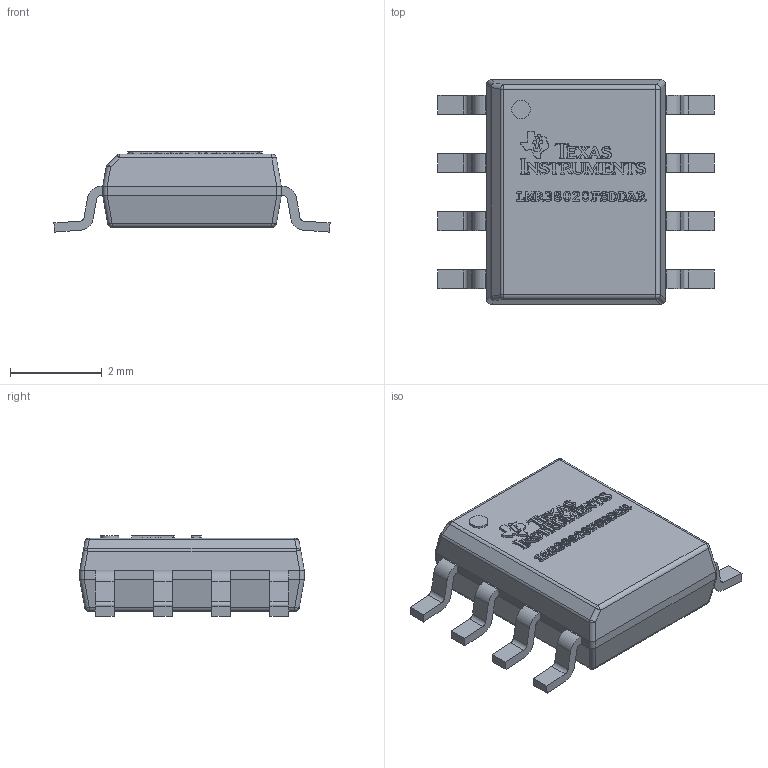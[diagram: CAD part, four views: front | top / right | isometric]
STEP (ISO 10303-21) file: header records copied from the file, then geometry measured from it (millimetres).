
FILE_DESCRIPTION(/* description */ (''),/* implementation_level */ '2;1');
FILE_NAME(/* name */ 'METUPowerLab_Regulators_BuckConverters_8-SOICPower-LMR38020FSDDAR.step',/* time_stamp */ '2026-08-28T01:01:01+03:00',/* author */ (''),/* organization */ (''),/* preprocessor_version */ 'ST-DEVELOPER v20.1',/* originating_system */ 'Autodesk Translation Framework v15.8.0.0',/* authorisation */ '');
FILE_SCHEMA (('AUTOMOTIVE_DESIGN { 1 0 10303 214 3 1 1 }'));
Length unit declared in the file: millimetre
Products named in the file (4): DDA0008E_ASM; BODY-SO; THERMALPAD-SO; LEAD-SO
Assembly tree (10 placements, depth 2):
  DDA0008E_ASM
    BODY-SO
    LEAD-SO  x8
    THERMALPAD-SO
Bounding box: 6.03 x 4.9 x 1.75 mm (x, y, z)
Volume: 30 mm3; surface area: 95.5 mm2
Topology: 40 solids, 40 shells, 1067 faces, 2909 edges, 1924 vertices
Faces by surface type: bspline 505, plane 496, cylinder 56, sphere 10
Full cylindrical faces by diameter (mm): 0.4 x1
Entity records: 34322 total; most frequent: CARTESIAN_POINT 13369, ORIENTED_EDGE 5314, EDGE_CURVE 2657, DIRECTION 2657, VERTEX_POINT 1756, LINE 1557, VECTOR 1557, EDGE_LOOP 995
